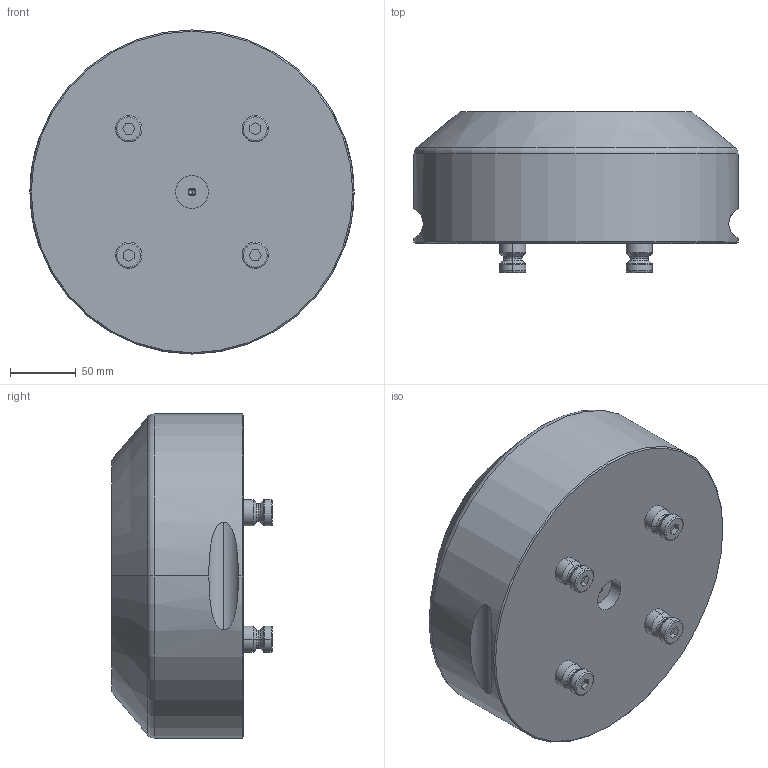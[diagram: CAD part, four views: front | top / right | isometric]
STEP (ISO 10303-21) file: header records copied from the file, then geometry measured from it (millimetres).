
FILE_DESCRIPTION (( 'STEP AP203' ), '1' );
FILE_NAME ('44010.STEP', '2012-11-05T13:07:08', ( '' ), ( '' ), 'SwSTEP 2.0', 'SolidWorks 2011', '' );
FILE_SCHEMA (( 'CONFIG_CONTROL_DESIGN' ));
Length unit declared in the file: millimetre
Products named in the file (1): 44010
Bounding box: 246 x 122 x 246 mm (x, y, z)
Volume: 4386010.3 mm3; surface area: 173794.7 mm2
Topology: 5 solids, 5 shells, 224 faces, 479 edges, 269 vertices
Faces by surface type: cone 76, cylinder 65, plane 49, torus 34
Entity records: 6168 total; most frequent: CARTESIAN_POINT 1219, DIRECTION 1139, ORIENTED_EDGE 914, AXIS2_PLACEMENT_3D 463, EDGE_CURVE 457, VERTEX_POINT 269, EDGE_LOOP 250, CIRCLE 238
